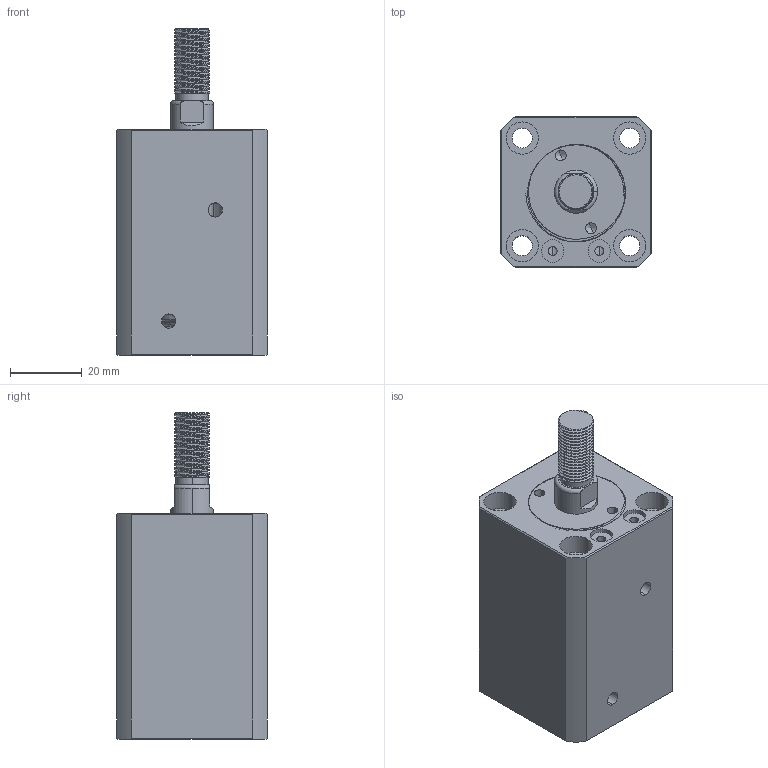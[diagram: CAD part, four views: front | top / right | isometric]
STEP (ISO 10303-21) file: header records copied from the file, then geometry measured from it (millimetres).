
FILE_DESCRIPTION (( 'STEP AP214' ), '1' );
FILE_NAME ('chtb-sdma20x20w_asm.STEP', '2018-05-18T04:15:54', ( 'Windows' ), ( 'Microsoft' ), 'SwSTEP 2.0', 'SolidWorks 2015', '' );
FILE_SCHEMA (( 'AUTOMOTIVE_DESIGN' ));
Length unit declared in the file: millimetre
Products named in the file (4): QG_3; CHTB-SDMA20X20WHSG; CHTB-SDMA20X20NBT; chtb-sdma20x20w_asm
Assembly tree (3 placements, depth 2):
  chtb-sdma20x20w_asm
    CHTB-SDMA20X20NBT
    CHTB-SDMA20X20WHSG
    QG_3
Bounding box: 42 x 42 x 91 mm (x, y, z)
Volume: 97574.8 mm3; surface area: 31912.7 mm2
Topology: 3 solids, 3 shells, 247 faces, 671 edges, 446 vertices
Faces by surface type: cylinder 144, plane 48, torus 25, bspline 23, cone 7
Entity records: 14895 total; most frequent: CARTESIAN_POINT 9018, ORIENTED_EDGE 1334, DIRECTION 1075, EDGE_CURVE 667, VERTEX_POINT 446, AXIS2_PLACEMENT_3D 441, EDGE_LOOP 285, ADVANCED_FACE 247
